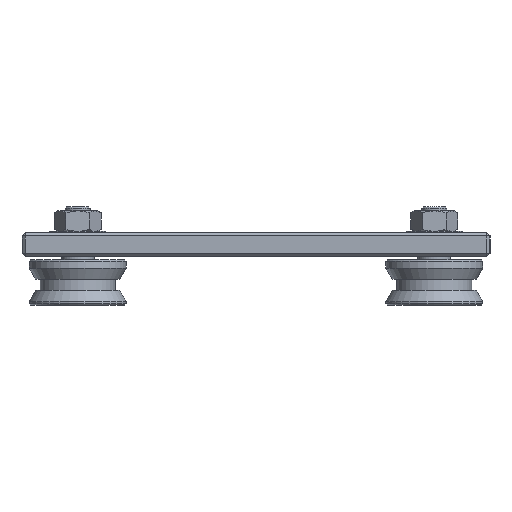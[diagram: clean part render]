
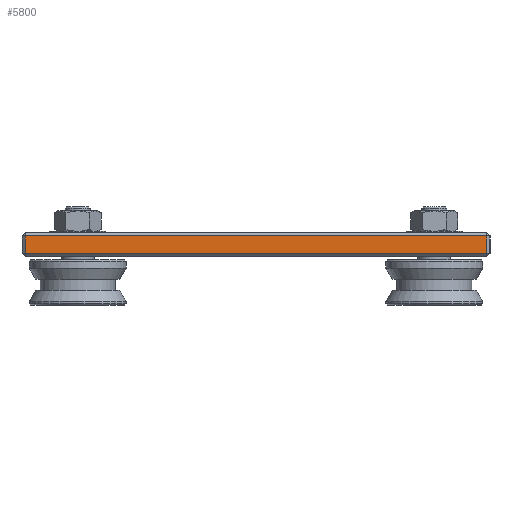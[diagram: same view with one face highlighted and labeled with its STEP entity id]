
A CAD part, left-side view. The second image highlights one B-rep face of the part: STEP entity #5800.
In plain terms, the highlighted planar face has unit normal (-1, 0, 0).
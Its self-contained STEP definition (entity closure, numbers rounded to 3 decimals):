
#1785 = FACE_OUTER_BOUND ( 'NONE', #5819, .T. ) ;
#1800 = DIRECTION ( 'NONE',  ( 0., 1., 0. ) ) ;
#1801 = VECTOR ( 'NONE', #1800, 1000. ) ;
#1802 = CARTESIAN_POINT ( 'NONE',  ( -88., 75., 2.85 ) ) ;
#1803 = LINE ( 'NONE', #1802, #1801 ) ;
#1804 = CARTESIAN_POINT ( 'NONE',  ( -88., -74., 2.85 ) ) ;
#1805 = DIRECTION ( 'NONE',  ( 0., 0., 1. ) ) ;
#1806 = VECTOR ( 'NONE', #1805, 1000. ) ;
#1807 = CARTESIAN_POINT ( 'NONE',  ( -88., -74., 3.85 ) ) ;
#1808 = LINE ( 'NONE', #1807, #1806 ) ;
#1809 = DIRECTION ( 'NONE',  ( 0., -1., 0. ) ) ;
#1810 = VECTOR ( 'NONE', #1809, 1000. ) ;
#1811 = CARTESIAN_POINT ( 'NONE',  ( -88., 75., -2.85 ) ) ;
#1812 = LINE ( 'NONE', #1811, #1810 ) ;
#1833 = CARTESIAN_POINT ( 'NONE',  ( -88., -74., -2.85 ) ) ;
#1834 = CARTESIAN_POINT ( 'NONE',  ( -88., 74., -2.85 ) ) ;
#1835 = CARTESIAN_POINT ( 'NONE',  ( -88., 74., 2.85 ) ) ;
#1836 = DIRECTION ( 'NONE',  ( 0., 0., -1. ) ) ;
#1837 = VECTOR ( 'NONE', #1836, 1000. ) ;
#1838 = CARTESIAN_POINT ( 'NONE',  ( -88., 74., 3.85 ) ) ;
#1839 = LINE ( 'NONE', #1838, #1837 ) ;
#1840 = DIRECTION ( 'NONE',  ( 0., 0., -1. ) ) ;
#1841 = DIRECTION ( 'NONE',  ( 1., 0., 0. ) ) ;
#1842 = CARTESIAN_POINT ( 'NONE',  ( -88., 75., 3.85 ) ) ;
#1843 = AXIS2_PLACEMENT_3D ( 'NONE', #1842, #1841, #1840 ) ;
#1844 = PLANE ( 'NONE',  #1843 ) ;
#5787 = ORIENTED_EDGE ( 'NONE', *, *, #5788, .T. ) ;
#5788 = EDGE_CURVE ( 'NONE', #5804, #5805, #1812, .T. ) ;
#5789 = ORIENTED_EDGE ( 'NONE', *, *, #5790, .T. ) ;
#5790 = EDGE_CURVE ( 'NONE', #5805, #5791, #1808, .T. ) ;
#5791 = VERTEX_POINT ( 'NONE', #1804 ) ;
#5792 = ORIENTED_EDGE ( 'NONE', *, *, #5793, .T. ) ;
#5793 = EDGE_CURVE ( 'NONE', #5791, #5803, #1803, .T. ) ;
#5800 = ADVANCED_FACE ( 'NONE', ( #1785 ), #1844, .F. ) ;
#5801 = ORIENTED_EDGE ( 'NONE', *, *, #5802, .T. ) ;
#5802 = EDGE_CURVE ( 'NONE', #5803, #5804, #1839, .T. ) ;
#5803 = VERTEX_POINT ( 'NONE', #1835 ) ;
#5804 = VERTEX_POINT ( 'NONE', #1834 ) ;
#5805 = VERTEX_POINT ( 'NONE', #1833 ) ;
#5819 = EDGE_LOOP ( 'NONE', ( #5801, #5787, #5789, #5792 ) ) ;
